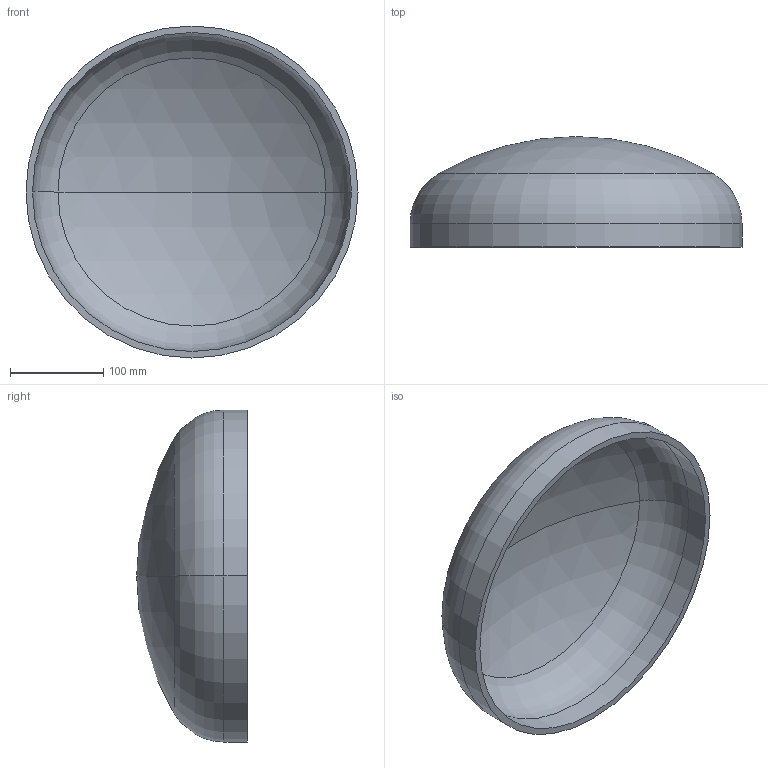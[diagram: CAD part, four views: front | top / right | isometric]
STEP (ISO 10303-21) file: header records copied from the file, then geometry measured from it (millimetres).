
FILE_DESCRIPTION (( 'STEP AP203' ), '1' );
FILE_NAME ('DIN 28013 Korbbogenform_-_Boden DIN 28013 - 355,6 x 25 - I - s=7.step', '2016-07-01T07:46:11', ( '' ), ( '' ), 'SwSTEP 2.0', 'SolidWorks 2013', '' );
FILE_SCHEMA (( 'CONFIG_CONTROL_DESIGN' ));
Length unit declared in the file: millimetre
Products named in the file (1): DIN 28013 Korbbogenform_-_Boden DIN 28013 - 355,6 x 25 - I - s=7
Bounding box: 355.6 x 118.44 x 355.6 mm (x, y, z)
Volume: 1130801.2 mm3; surface area: 330854.7 mm2
Topology: 1 solids, 1 shells, 13 faces, 24 edges, 14 vertices
Faces by surface type: torus 4, cylinder 4, sphere 4, plane 1
Entity records: 407 total; most frequent: DIRECTION 72, CARTESIAN_POINT 52, ORIENTED_EDGE 48, AXIS2_PLACEMENT_3D 34, EDGE_CURVE 24, CIRCLE 20, EDGE_LOOP 14, VERTEX_POINT 14
